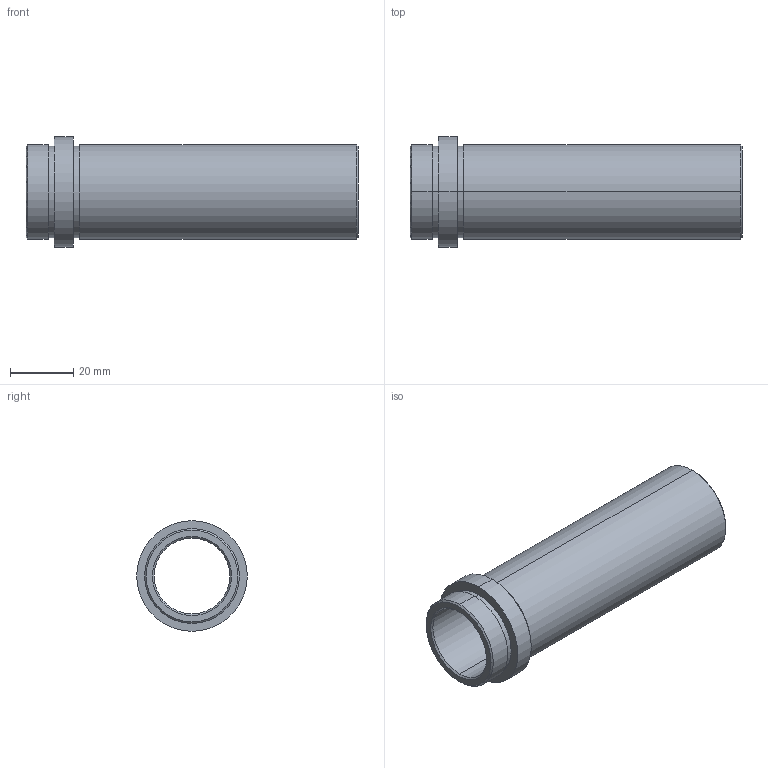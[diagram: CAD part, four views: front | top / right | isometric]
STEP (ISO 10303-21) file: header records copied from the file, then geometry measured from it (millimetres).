
FILE_DESCRIPTION( ( 'STEP AP203' ), '1' );
FILE_NAME( 'D:/Delta 3 D/D21/D21 - 24x96.step', '2002-12-31T22:47:31', ( ' ' ), ( ' ' ), 'XStep 1.0', ' ', ' ' );
FILE_SCHEMA( ( 'CONFIG_CONTROL_DESIGN' ) );
Length unit declared in the file: metre
Products named in the file (1): 1
Bounding box: 105 x 35 x 35 mm (x, y, z)
Volume: 28023 mm3; surface area: 18999.9 mm2
Topology: 1 solids, 1 shells, 26 faces, 52 edges, 32 vertices
Faces by surface type: revolution 20, bspline 6
Entity records: 773 total; most frequent: CARTESIAN_POINT 169, DIRECTION 106, ORIENTED_EDGE 104, EDGE_CURVE 52, AXIS2_PLACEMENT_3D 33, EDGE_LOOP 32, VERTEX_POINT 32, CIRCLE 32
